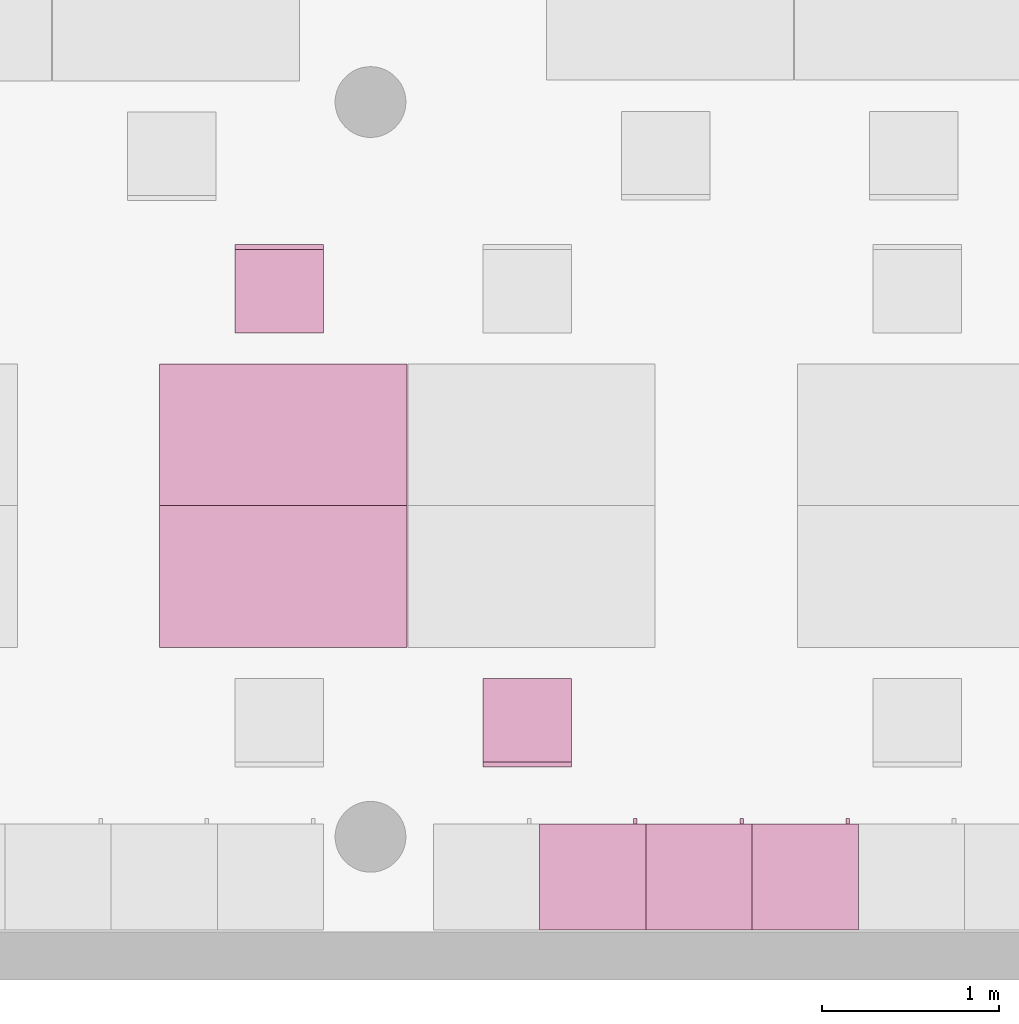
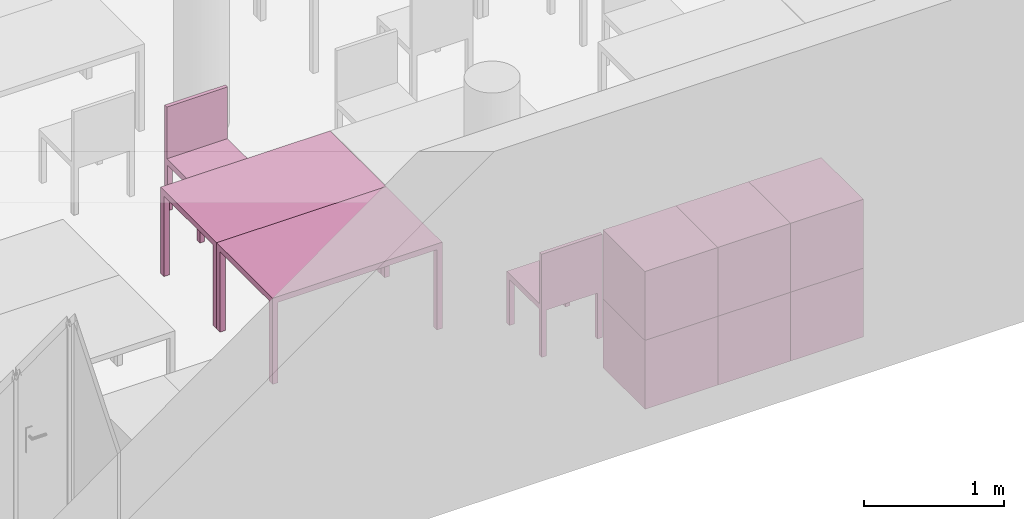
"""IFC4 building model written with IfcOpenShell, lengths in metres."""

from ifc_helpers import new_model, entity, si_unit, converted_unit, derived_unit, frame, origin, place, context, subcontext, project, spatial, faceted_brep, element, save


model = new_model("IFC4")

# Units and contexts
model_context = context("Model", 3, precision=1e-05, world=origin())
body_context = subcontext(model_context, "Body", "Model", "MODEL_VIEW")
ifc_project = project(units=[si_unit("LENGTHUNIT", "METRE"), si_unit("AREAUNIT", "SQUARE_METRE"), si_unit("VOLUMEUNIT", "CUBIC_METRE"), si_unit("MASSUNIT", "GRAM", prefix="KILO"), converted_unit("PLANEANGLEUNIT", "DEGREE", entity("IfcPlaneAngleMeasure", 0.0174532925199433), si_unit("PLANEANGLEUNIT", "RADIAN"), dimensions=[0, 0, 0, 0, 0, 0, 0]), derived_unit("THERMALTRANSMITTANCEUNIT", [(si_unit("POWERUNIT", "WATT"), 1), (si_unit("THERMODYNAMICTEMPERATUREUNIT", "KELVIN"), -1), (si_unit("LENGTHUNIT", "METRE"), -2)]), derived_unit("VOLUMETRICFLOWRATEUNIT", [(si_unit("LENGTHUNIT", "METRE"), 3), (converted_unit("TIMEUNIT", "hour", entity("IfcTimeMeasure", 3600.0), si_unit("TIMEUNIT", "SECOND"), dimensions=[0, 0, 1, 0, 0, 0, 0]), -1), (si_unit("LENGTHUNIT", "METRE"), -1)])], contexts=[model_context])

# Building, storeys
building_placement = place(None, origin())
building = spatial("IfcBuilding", under=ifc_project, at=building_placement, Name="HABITATGE PLURIFAMILIAR", CompositionType="ELEMENT")
storey_1_placement = place(building_placement, frame((0.0, 0.0, 18.29)))
storey_1 = spatial("IfcBuildingStorey", under=building, at=storey_1_placement, Name="PLANTA CINQUENA", CompositionType="ELEMENT", Elevation=18.29)
storey_2_placement = place(storey_1_placement, frame((0.0, 0.0, 15.28)))
storey_2 = spatial("IfcBuildingStorey", under=storey_1, at=storey_2_placement, Name="NOU", CompositionType="PARTIAL")

# Furniture
furniture_1_placement = place(storey_2_placement, frame((409.543194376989, 15.5193186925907, -15.28)))
element("IfcFurniture", 1, at=furniture_1_placement, inside=storey_2, Name="Taula 140X80_P5", context=body_context, shape_type="Brep", body=[
    faceted_brep([(0.04375, 0.05, 0.0), (0.0, 0.05, 0.0), (0.0, 0.0, 0.0), (0.04375, 0.0, 0.0), (0.04375, 0.0, 0.7), (0.0, 0.0, 0.7), (0.0, 0.05, 0.7), (0.04375, 0.05, 0.7)], [[[0, 1, 2, 3]], [[4, 5, 6, 7]], [[3, 4, 7, 0]], [[2, 5, 4, 3]], [[1, 6, 5, 2]], [[0, 7, 6, 1]]], orient=[[False], [False], [False], [False], [False], [False]]),
    faceted_brep([(0.04375, 0.800069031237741, 0.0), (0.0, 0.800069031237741, 0.0), (0.0, 0.750069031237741, 0.0), (0.04375, 0.750069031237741, 0.0), (0.04375, 0.750069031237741, 0.7), (0.0, 0.750069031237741, 0.7), (0.0, 0.800069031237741, 0.7), (0.04375, 0.800069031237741, 0.7)], [[[0, 1, 2, 3]], [[4, 5, 6, 7]], [[3, 4, 7, 0]], [[2, 5, 4, 3]], [[1, 6, 5, 2]], [[0, 7, 6, 1]]], orient=[[False], [False], [False], [False], [False], [False]]),
    faceted_brep([(1.39732768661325, 0.800069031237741, 0.7), (0.0, 0.800069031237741, 0.7), (0.0, 0.0, 0.7), (1.39732768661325, 0.0, 0.7), (1.39732768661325, 0.0, 0.75), (0.0, 0.0, 0.75), (0.0, 0.800069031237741, 0.75), (1.39732768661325, 0.800069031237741, 0.75)], [[[0, 1, 2, 3]], [[4, 5, 6, 7]], [[3, 4, 7, 0]], [[2, 5, 4, 3]], [[1, 6, 5, 2]], [[0, 7, 6, 1]]], orient=[[False], [False], [False], [False], [False], [False]]),
    faceted_brep([(1.39732768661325, 0.05, 0.0), (1.35357768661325, 0.05, 0.0), (1.35357768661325, 0.0, 0.0), (1.39732768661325, 0.0, 0.0), (1.39732768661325, 0.0, 0.7), (1.35357768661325, 0.0, 0.7), (1.35357768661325, 0.05, 0.7), (1.39732768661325, 0.05, 0.7)], [[[0, 1, 2, 3]], [[4, 5, 6, 7]], [[3, 4, 7, 0]], [[2, 5, 4, 3]], [[1, 6, 5, 2]], [[0, 7, 6, 1]]], orient=[[False], [False], [False], [False], [False], [False]]),
    faceted_brep([(1.39732768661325, 0.800069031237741, 0.0), (1.35357768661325, 0.800069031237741, 0.0), (1.35357768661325, 0.750069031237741, 0.0), (1.39732768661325, 0.750069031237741, 0.0), (1.39732768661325, 0.750069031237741, 0.7), (1.35357768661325, 0.750069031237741, 0.7), (1.35357768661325, 0.800069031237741, 0.7), (1.39732768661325, 0.800069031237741, 0.7)], [[[0, 1, 2, 3]], [[4, 5, 6, 7]], [[3, 4, 7, 0]], [[2, 5, 4, 3]], [[1, 6, 5, 2]], [[0, 7, 6, 1]]], orient=[[False], [False], [False], [False], [False], [False]]),
])
furniture_2_placement = place(storey_2_placement, frame((409.543194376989, 14.7192496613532, -15.28)))
element("IfcFurniture", 2, at=furniture_2_placement, inside=storey_2, Name="Taula 140X80_P5", context=body_context, shape_type="Brep", body=[
    faceted_brep([(0.04375, 0.750069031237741, 0.0), (0.04375, 0.800069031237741, 0.0), (0.0, 0.800069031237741, 0.0), (0.0, 0.750069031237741, 0.0), (0.04375, 0.800069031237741, 0.7), (0.04375, 0.750069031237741, 0.7), (0.0, 0.750069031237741, 0.7), (0.0, 0.800069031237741, 0.7)], [[[0, 1, 2, 3]], [[4, 5, 6, 7]], [[1, 0, 5, 4]], [[2, 1, 4, 7]], [[3, 2, 7, 6]], [[0, 3, 6, 5]]], orient=[[False], [False], [False], [False], [False], [False]]),
    faceted_brep([(0.04375, 0.0, 0.0), (0.04375, 0.05, 0.0), (0.0, 0.05, 0.0), (0.0, 0.0, 0.0), (0.04375, 0.05, 0.7), (0.04375, 0.0, 0.7), (0.0, 0.0, 0.7), (0.0, 0.05, 0.7)], [[[0, 1, 2, 3]], [[4, 5, 6, 7]], [[1, 0, 5, 4]], [[2, 1, 4, 7]], [[3, 2, 7, 6]], [[0, 3, 6, 5]]], orient=[[False], [False], [False], [False], [False], [False]]),
    faceted_brep([(1.39732768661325, 0.0, 0.7), (1.39732768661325, 0.800069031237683, 0.7), (0.0, 0.800069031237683, 0.7), (0.0, 0.0, 0.7), (1.39732768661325, 0.800069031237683, 0.75), (1.39732768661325, 0.0, 0.75), (0.0, 0.0, 0.75), (0.0, 0.800069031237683, 0.75)], [[[0, 1, 2, 3]], [[4, 5, 6, 7]], [[1, 0, 5, 4]], [[2, 1, 4, 7]], [[3, 2, 7, 6]], [[0, 3, 6, 5]]], orient=[[False], [False], [False], [False], [False], [False]]),
    faceted_brep([(1.39732768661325, 0.750069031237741, 0.0), (1.39732768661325, 0.800069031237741, 0.0), (1.35357768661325, 0.800069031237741, 0.0), (1.35357768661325, 0.750069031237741, 0.0), (1.39732768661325, 0.800069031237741, 0.7), (1.39732768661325, 0.750069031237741, 0.7), (1.35357768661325, 0.750069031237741, 0.7), (1.35357768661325, 0.800069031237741, 0.7)], [[[0, 1, 2, 3]], [[4, 5, 6, 7]], [[1, 0, 5, 4]], [[2, 1, 4, 7]], [[3, 2, 7, 6]], [[0, 3, 6, 5]]], orient=[[False], [False], [False], [False], [False], [False]]),
    faceted_brep([(1.39732768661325, 0.0, 0.0), (1.39732768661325, 0.05, 0.0), (1.35357768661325, 0.05, 0.0), (1.35357768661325, 0.0, 0.0), (1.39732768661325, 0.05, 0.7), (1.39732768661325, 0.0, 0.7), (1.35357768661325, 0.0, 0.7), (1.35357768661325, 0.05, 0.7)], [[[0, 1, 2, 3]], [[4, 5, 6, 7]], [[1, 0, 5, 4]], [[2, 1, 4, 7]], [[3, 2, 7, 6]], [[0, 3, 6, 5]]], orient=[[False], [False], [False], [False], [False], [False]]),
])
furniture_3_placement = place(storey_2_placement, frame((412.289266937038, 13.1230771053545, -15.2800000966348)))
element("IfcFurniture", 3, at=furniture_3_placement, inside=storey_2, Name="Armai 60x60x60_P5", context=body_context, shape_type="Brep", body=[
    faceted_brep([(0.600000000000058, 0.6, 0.02), (0.0, 0.6, 0.02), (0.0, 0.6, 0.0), (0.600000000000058, 0.6, 0.0), (0.0, 0.0, 0.02), (0.0, 0.0, 0.0), (0.600000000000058, 0.0, 0.02), (0.600000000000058, 0.0, 0.0)], [[[0, 1, 2, 3]], [[1, 4, 5, 2]], [[4, 6, 7, 5]], [[6, 0, 3, 7]], [[0, 6, 4, 1]], [[3, 2, 5, 7]]], orient=[[False], [False], [False], [False], [False], [False]]),
    faceted_brep([(0.02, 0.0, 0.58), (0.02, 0.0, 0.02), (0.02, 0.0200000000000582, 0.02), (0.02, 0.0200000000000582, 0.58), (0.58, 0.0, 0.02), (0.58, 0.0200000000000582, 0.02), (0.58, 0.0, 0.58), (0.58, 0.0200000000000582, 0.58)], [[[0, 1, 2, 3]], [[1, 4, 5, 2]], [[4, 6, 7, 5]], [[6, 0, 3, 7]], [[0, 6, 4, 1]], [[3, 2, 5, 7]]], orient=[[False], [False], [False], [False], [False], [False]]),
    faceted_brep([(0.58, 0.6, 0.58), (0.58, 0.6, 0.02), (0.6, 0.6, 0.02), (0.6, 0.6, 0.58), (0.58, 0.0, 0.02), (0.6, 0.0, 0.02), (0.58, 0.0, 0.58), (0.6, 0.0, 0.58)], [[[0, 1, 2, 3]], [[1, 4, 5, 2]], [[4, 6, 7, 5]], [[6, 0, 3, 7]], [[0, 6, 4, 1]], [[3, 2, 5, 7]]], orient=[[False], [False], [False], [False], [False], [False]]),
    faceted_brep([(0.600000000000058, 0.58, 0.58), (0.600000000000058, 0.58, 0.02), (0.600000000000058, 0.6, 0.02), (0.600000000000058, 0.6, 0.58), (0.580000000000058, 0.58, 0.02), (0.580000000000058, 0.6, 0.02), (0.580000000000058, 0.58, 0.58), (0.580000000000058, 0.6, 0.58)], [[[0, 1, 2, 3]], [[1, 4, 5, 2]], [[4, 6, 7, 5]], [[6, 0, 3, 7]], [[0, 6, 4, 1]], [[3, 2, 5, 7]]], orient=[[False], [False], [False], [False], [False], [False]]),
    faceted_brep([(0.0, 0.6, 0.58), (0.0, 0.6, 0.02), (0.0200000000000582, 0.6, 0.02), (0.0200000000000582, 0.6, 0.58), (0.0, 0.0, 0.02), (0.0200000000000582, 0.0, 0.02), (0.0, 0.0, 0.58), (0.0200000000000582, 0.0, 0.58)], [[[0, 1, 2, 3]], [[1, 4, 5, 2]], [[4, 6, 7, 5]], [[6, 0, 3, 7]], [[0, 6, 4, 1]], [[3, 2, 5, 7]]], orient=[[False], [False], [False], [False], [False], [False]]),
    faceted_brep([(0.6, 0.600000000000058, 0.6), (0.0, 0.600000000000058, 0.6), (0.0, 0.600000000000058, 0.58), (0.6, 0.600000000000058, 0.58), (0.0, 0.0, 0.6), (0.0, 0.0, 0.58), (0.6, 0.0, 0.6), (0.6, 0.0, 0.58)], [[[0, 1, 2, 3]], [[1, 4, 5, 2]], [[4, 6, 7, 5]], [[6, 0, 3, 7]], [[0, 6, 4, 1]], [[3, 2, 5, 7]]], orient=[[False], [False], [False], [False], [False], [False]]),
    faceted_brep([(0.02, 0.580000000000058, 0.58), (0.02, 0.580000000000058, 0.02), (0.02, 0.600000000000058, 0.02), (0.02, 0.600000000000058, 0.58), (0.580000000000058, 0.580000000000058, 0.02), (0.580000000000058, 0.600000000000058, 0.02), (0.580000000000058, 0.580000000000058, 0.58), (0.580000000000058, 0.600000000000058, 0.58)], [[[0, 1, 2, 3]], [[1, 4, 5, 2]], [[4, 6, 7, 5]], [[6, 0, 3, 7]], [[0, 6, 4, 1]], [[3, 2, 5, 7]]], orient=[[False], [False], [False], [False], [False], [False]]),
    faceted_brep([(0.53, 0.600000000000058, 0.358064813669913), (0.53, 0.600000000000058, 0.258064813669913), (0.53, 0.630000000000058, 0.258064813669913), (0.53, 0.630000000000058, 0.358064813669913), (0.55, 0.600000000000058, 0.258064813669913), (0.55, 0.630000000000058, 0.258064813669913), (0.55, 0.600000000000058, 0.358064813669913), (0.55, 0.630000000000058, 0.358064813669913)], [[[0, 1, 2, 3]], [[1, 4, 5, 2]], [[4, 6, 7, 5]], [[6, 0, 3, 7]], [[0, 6, 4, 1]], [[3, 2, 5, 7]]], orient=[[False], [False], [False], [False], [False], [False]]),
])
furniture_4_placement = place(storey_2_placement, frame((411.689266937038, 13.1230771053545, -15.2800000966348)))
element("IfcFurniture", 4, at=furniture_4_placement, inside=storey_2, Name="Armai 60x60x60_P5", context=body_context, shape_type="Brep", body=[
    faceted_brep([(0.600000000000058, 0.6, 0.02), (0.0, 0.6, 0.02), (0.0, 0.6, 0.0), (0.600000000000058, 0.6, 0.0), (0.0, 0.0, 0.02), (0.0, 0.0, 0.0), (0.600000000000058, 0.0, 0.02), (0.600000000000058, 0.0, 0.0)], [[[0, 1, 2, 3]], [[1, 4, 5, 2]], [[4, 6, 7, 5]], [[6, 0, 3, 7]], [[0, 6, 4, 1]], [[3, 2, 5, 7]]], orient=[[False], [False], [False], [False], [False], [False]]),
    faceted_brep([(0.02, 0.0, 0.58), (0.02, 0.0, 0.02), (0.02, 0.0200000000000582, 0.02), (0.02, 0.0200000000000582, 0.58), (0.58, 0.0, 0.02), (0.58, 0.0200000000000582, 0.02), (0.58, 0.0, 0.58), (0.58, 0.0200000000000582, 0.58)], [[[0, 1, 2, 3]], [[1, 4, 5, 2]], [[4, 6, 7, 5]], [[6, 0, 3, 7]], [[0, 6, 4, 1]], [[3, 2, 5, 7]]], orient=[[False], [False], [False], [False], [False], [False]]),
    faceted_brep([(0.58, 0.6, 0.58), (0.58, 0.6, 0.02), (0.6, 0.6, 0.02), (0.6, 0.6, 0.58), (0.58, 0.0, 0.02), (0.6, 0.0, 0.02), (0.58, 0.0, 0.58), (0.6, 0.0, 0.58)], [[[0, 1, 2, 3]], [[1, 4, 5, 2]], [[4, 6, 7, 5]], [[6, 0, 3, 7]], [[0, 6, 4, 1]], [[3, 2, 5, 7]]], orient=[[False], [False], [False], [False], [False], [False]]),
    faceted_brep([(0.600000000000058, 0.58, 0.58), (0.600000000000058, 0.58, 0.02), (0.600000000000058, 0.6, 0.02), (0.600000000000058, 0.6, 0.58), (0.580000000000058, 0.58, 0.02), (0.580000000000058, 0.6, 0.02), (0.580000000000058, 0.58, 0.58), (0.580000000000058, 0.6, 0.58)], [[[0, 1, 2, 3]], [[1, 4, 5, 2]], [[4, 6, 7, 5]], [[6, 0, 3, 7]], [[0, 6, 4, 1]], [[3, 2, 5, 7]]], orient=[[False], [False], [False], [False], [False], [False]]),
    faceted_brep([(0.0, 0.6, 0.58), (0.0, 0.6, 0.02), (0.0200000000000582, 0.6, 0.02), (0.0200000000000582, 0.6, 0.58), (0.0, 0.0, 0.02), (0.0200000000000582, 0.0, 0.02), (0.0, 0.0, 0.58), (0.0200000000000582, 0.0, 0.58)], [[[0, 1, 2, 3]], [[1, 4, 5, 2]], [[4, 6, 7, 5]], [[6, 0, 3, 7]], [[0, 6, 4, 1]], [[3, 2, 5, 7]]], orient=[[False], [False], [False], [False], [False], [False]]),
    faceted_brep([(0.6, 0.600000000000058, 0.6), (0.0, 0.600000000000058, 0.6), (0.0, 0.600000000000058, 0.58), (0.6, 0.600000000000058, 0.58), (0.0, 0.0, 0.6), (0.0, 0.0, 0.58), (0.6, 0.0, 0.6), (0.6, 0.0, 0.58)], [[[0, 1, 2, 3]], [[1, 4, 5, 2]], [[4, 6, 7, 5]], [[6, 0, 3, 7]], [[0, 6, 4, 1]], [[3, 2, 5, 7]]], orient=[[False], [False], [False], [False], [False], [False]]),
    faceted_brep([(0.02, 0.580000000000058, 0.58), (0.02, 0.580000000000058, 0.02), (0.02, 0.600000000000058, 0.02), (0.02, 0.600000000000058, 0.58), (0.580000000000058, 0.580000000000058, 0.02), (0.580000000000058, 0.600000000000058, 0.02), (0.580000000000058, 0.580000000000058, 0.58), (0.580000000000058, 0.600000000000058, 0.58)], [[[0, 1, 2, 3]], [[1, 4, 5, 2]], [[4, 6, 7, 5]], [[6, 0, 3, 7]], [[0, 6, 4, 1]], [[3, 2, 5, 7]]], orient=[[False], [False], [False], [False], [False], [False]]),
    faceted_brep([(0.53, 0.600000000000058, 0.358064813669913), (0.53, 0.600000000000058, 0.258064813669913), (0.53, 0.630000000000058, 0.258064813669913), (0.53, 0.630000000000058, 0.358064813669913), (0.55, 0.600000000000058, 0.258064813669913), (0.55, 0.630000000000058, 0.258064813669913), (0.55, 0.600000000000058, 0.358064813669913), (0.55, 0.630000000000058, 0.358064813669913)], [[[0, 1, 2, 3]], [[1, 4, 5, 2]], [[4, 6, 7, 5]], [[6, 0, 3, 7]], [[0, 6, 4, 1]], [[3, 2, 5, 7]]], orient=[[False], [False], [False], [False], [False], [False]]),
])
furniture_5_placement = place(storey_2_placement, frame((412.889266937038, 13.1230771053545, -15.2800000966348)))
element("IfcFurniture", 5, at=furniture_5_placement, inside=storey_2, Name="Armai 60x60x60_P5", context=body_context, shape_type="Brep", body=[
    faceted_brep([(0.600000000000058, 0.6, 0.02), (0.0, 0.6, 0.02), (0.0, 0.6, 0.0), (0.600000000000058, 0.6, 0.0), (0.0, 0.0, 0.02), (0.0, 0.0, 0.0), (0.600000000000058, 0.0, 0.02), (0.600000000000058, 0.0, 0.0)], [[[0, 1, 2, 3]], [[1, 4, 5, 2]], [[4, 6, 7, 5]], [[6, 0, 3, 7]], [[0, 6, 4, 1]], [[3, 2, 5, 7]]], orient=[[False], [False], [False], [False], [False], [False]]),
    faceted_brep([(0.02, 0.0, 0.58), (0.02, 0.0, 0.02), (0.02, 0.0200000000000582, 0.02), (0.02, 0.0200000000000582, 0.58), (0.58, 0.0, 0.02), (0.58, 0.0200000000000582, 0.02), (0.58, 0.0, 0.58), (0.58, 0.0200000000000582, 0.58)], [[[0, 1, 2, 3]], [[1, 4, 5, 2]], [[4, 6, 7, 5]], [[6, 0, 3, 7]], [[0, 6, 4, 1]], [[3, 2, 5, 7]]], orient=[[False], [False], [False], [False], [False], [False]]),
    faceted_brep([(0.58, 0.6, 0.58), (0.58, 0.6, 0.02), (0.6, 0.6, 0.02), (0.6, 0.6, 0.58), (0.58, 0.0, 0.02), (0.6, 0.0, 0.02), (0.58, 0.0, 0.58), (0.6, 0.0, 0.58)], [[[0, 1, 2, 3]], [[1, 4, 5, 2]], [[4, 6, 7, 5]], [[6, 0, 3, 7]], [[0, 6, 4, 1]], [[3, 2, 5, 7]]], orient=[[False], [False], [False], [False], [False], [False]]),
    faceted_brep([(0.600000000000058, 0.58, 0.58), (0.600000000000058, 0.58, 0.02), (0.600000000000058, 0.6, 0.02), (0.600000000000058, 0.6, 0.58), (0.580000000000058, 0.58, 0.02), (0.580000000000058, 0.6, 0.02), (0.580000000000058, 0.58, 0.58), (0.580000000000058, 0.6, 0.58)], [[[0, 1, 2, 3]], [[1, 4, 5, 2]], [[4, 6, 7, 5]], [[6, 0, 3, 7]], [[0, 6, 4, 1]], [[3, 2, 5, 7]]], orient=[[False], [False], [False], [False], [False], [False]]),
    faceted_brep([(0.0, 0.6, 0.58), (0.0, 0.6, 0.02), (0.0200000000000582, 0.6, 0.02), (0.0200000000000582, 0.6, 0.58), (0.0, 0.0, 0.02), (0.0200000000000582, 0.0, 0.02), (0.0, 0.0, 0.58), (0.0200000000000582, 0.0, 0.58)], [[[0, 1, 2, 3]], [[1, 4, 5, 2]], [[4, 6, 7, 5]], [[6, 0, 3, 7]], [[0, 6, 4, 1]], [[3, 2, 5, 7]]], orient=[[False], [False], [False], [False], [False], [False]]),
    faceted_brep([(0.6, 0.600000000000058, 0.6), (0.0, 0.600000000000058, 0.6), (0.0, 0.600000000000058, 0.58), (0.6, 0.600000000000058, 0.58), (0.0, 0.0, 0.6), (0.0, 0.0, 0.58), (0.6, 0.0, 0.6), (0.6, 0.0, 0.58)], [[[0, 1, 2, 3]], [[1, 4, 5, 2]], [[4, 6, 7, 5]], [[6, 0, 3, 7]], [[0, 6, 4, 1]], [[3, 2, 5, 7]]], orient=[[False], [False], [False], [False], [False], [False]]),
    faceted_brep([(0.02, 0.580000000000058, 0.58), (0.02, 0.580000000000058, 0.02), (0.02, 0.600000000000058, 0.02), (0.02, 0.600000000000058, 0.58), (0.580000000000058, 0.580000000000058, 0.02), (0.580000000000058, 0.600000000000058, 0.02), (0.580000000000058, 0.580000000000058, 0.58), (0.580000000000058, 0.600000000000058, 0.58)], [[[0, 1, 2, 3]], [[1, 4, 5, 2]], [[4, 6, 7, 5]], [[6, 0, 3, 7]], [[0, 6, 4, 1]], [[3, 2, 5, 7]]], orient=[[False], [False], [False], [False], [False], [False]]),
    faceted_brep([(0.53, 0.600000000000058, 0.358064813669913), (0.53, 0.600000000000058, 0.258064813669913), (0.53, 0.630000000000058, 0.258064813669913), (0.53, 0.630000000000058, 0.358064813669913), (0.55, 0.600000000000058, 0.258064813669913), (0.55, 0.630000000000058, 0.258064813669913), (0.55, 0.600000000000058, 0.358064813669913), (0.55, 0.630000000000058, 0.358064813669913)], [[[0, 1, 2, 3]], [[1, 4, 5, 2]], [[4, 6, 7, 5]], [[6, 0, 3, 7]], [[0, 6, 4, 1]], [[3, 2, 5, 7]]], orient=[[False], [False], [False], [False], [False], [False]]),
])
furniture_6_placement = place(storey_2_placement, frame((412.289266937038, 13.1230771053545, -14.6800000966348)))
element("IfcFurniture", 6, at=furniture_6_placement, inside=storey_2, Name="Armai 60x60x60_P5", context=body_context, shape_type="Brep", body=[
    faceted_brep([(0.600000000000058, 0.6, 0.02), (0.0, 0.6, 0.02), (0.0, 0.6, 0.0), (0.600000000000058, 0.6, 0.0), (0.0, 0.0, 0.02), (0.0, 0.0, 0.0), (0.600000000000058, 0.0, 0.02), (0.600000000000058, 0.0, 0.0)], [[[0, 1, 2, 3]], [[1, 4, 5, 2]], [[4, 6, 7, 5]], [[6, 0, 3, 7]], [[0, 6, 4, 1]], [[3, 2, 5, 7]]], orient=[[False], [False], [False], [False], [False], [False]]),
    faceted_brep([(0.02, 0.0, 0.58), (0.02, 0.0, 0.02), (0.02, 0.0200000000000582, 0.02), (0.02, 0.0200000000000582, 0.58), (0.58, 0.0, 0.02), (0.58, 0.0200000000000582, 0.02), (0.58, 0.0, 0.58), (0.58, 0.0200000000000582, 0.58)], [[[0, 1, 2, 3]], [[1, 4, 5, 2]], [[4, 6, 7, 5]], [[6, 0, 3, 7]], [[0, 6, 4, 1]], [[3, 2, 5, 7]]], orient=[[False], [False], [False], [False], [False], [False]]),
    faceted_brep([(0.58, 0.6, 0.58), (0.58, 0.6, 0.02), (0.6, 0.6, 0.02), (0.6, 0.6, 0.58), (0.58, 0.0, 0.02), (0.6, 0.0, 0.02), (0.58, 0.0, 0.58), (0.6, 0.0, 0.58)], [[[0, 1, 2, 3]], [[1, 4, 5, 2]], [[4, 6, 7, 5]], [[6, 0, 3, 7]], [[0, 6, 4, 1]], [[3, 2, 5, 7]]], orient=[[False], [False], [False], [False], [False], [False]]),
    faceted_brep([(0.600000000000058, 0.58, 0.58), (0.600000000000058, 0.58, 0.02), (0.600000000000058, 0.6, 0.02), (0.600000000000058, 0.6, 0.58), (0.580000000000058, 0.58, 0.02), (0.580000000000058, 0.6, 0.02), (0.580000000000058, 0.58, 0.58), (0.580000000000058, 0.6, 0.58)], [[[0, 1, 2, 3]], [[1, 4, 5, 2]], [[4, 6, 7, 5]], [[6, 0, 3, 7]], [[0, 6, 4, 1]], [[3, 2, 5, 7]]], orient=[[False], [False], [False], [False], [False], [False]]),
    faceted_brep([(0.0, 0.6, 0.58), (0.0, 0.6, 0.02), (0.0200000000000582, 0.6, 0.02), (0.0200000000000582, 0.6, 0.58), (0.0, 0.0, 0.02), (0.0200000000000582, 0.0, 0.02), (0.0, 0.0, 0.58), (0.0200000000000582, 0.0, 0.58)], [[[0, 1, 2, 3]], [[1, 4, 5, 2]], [[4, 6, 7, 5]], [[6, 0, 3, 7]], [[0, 6, 4, 1]], [[3, 2, 5, 7]]], orient=[[False], [False], [False], [False], [False], [False]]),
    faceted_brep([(0.6, 0.600000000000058, 0.6), (0.0, 0.600000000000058, 0.6), (0.0, 0.600000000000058, 0.58), (0.6, 0.600000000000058, 0.58), (0.0, 0.0, 0.6), (0.0, 0.0, 0.58), (0.6, 0.0, 0.6), (0.6, 0.0, 0.58)], [[[0, 1, 2, 3]], [[1, 4, 5, 2]], [[4, 6, 7, 5]], [[6, 0, 3, 7]], [[0, 6, 4, 1]], [[3, 2, 5, 7]]], orient=[[False], [False], [False], [False], [False], [False]]),
    faceted_brep([(0.02, 0.580000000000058, 0.58), (0.02, 0.580000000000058, 0.02), (0.02, 0.600000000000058, 0.02), (0.02, 0.600000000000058, 0.58), (0.580000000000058, 0.580000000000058, 0.02), (0.580000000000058, 0.600000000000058, 0.02), (0.580000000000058, 0.580000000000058, 0.58), (0.580000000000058, 0.600000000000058, 0.58)], [[[0, 1, 2, 3]], [[1, 4, 5, 2]], [[4, 6, 7, 5]], [[6, 0, 3, 7]], [[0, 6, 4, 1]], [[3, 2, 5, 7]]], orient=[[False], [False], [False], [False], [False], [False]]),
    faceted_brep([(0.53, 0.600000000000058, 0.358064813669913), (0.53, 0.600000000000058, 0.258064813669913), (0.53, 0.630000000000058, 0.258064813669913), (0.53, 0.630000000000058, 0.358064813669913), (0.55, 0.600000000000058, 0.258064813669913), (0.55, 0.630000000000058, 0.258064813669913), (0.55, 0.600000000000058, 0.358064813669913), (0.55, 0.630000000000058, 0.358064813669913)], [[[0, 1, 2, 3]], [[1, 4, 5, 2]], [[4, 6, 7, 5]], [[6, 0, 3, 7]], [[0, 6, 4, 1]], [[3, 2, 5, 7]]], orient=[[False], [False], [False], [False], [False], [False]]),
])
furniture_7_placement = place(storey_2_placement, frame((411.689266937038, 13.1230771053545, -14.6800000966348)))
element("IfcFurniture", 7, at=furniture_7_placement, inside=storey_2, Name="Armai 60x60x60_P5", context=body_context, shape_type="Brep", body=[
    faceted_brep([(0.600000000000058, 0.6, 0.02), (0.0, 0.6, 0.02), (0.0, 0.6, 0.0), (0.600000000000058, 0.6, 0.0), (0.0, 0.0, 0.02), (0.0, 0.0, 0.0), (0.600000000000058, 0.0, 0.02), (0.600000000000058, 0.0, 0.0)], [[[0, 1, 2, 3]], [[1, 4, 5, 2]], [[4, 6, 7, 5]], [[6, 0, 3, 7]], [[0, 6, 4, 1]], [[3, 2, 5, 7]]], orient=[[False], [False], [False], [False], [False], [False]]),
    faceted_brep([(0.02, 0.0, 0.58), (0.02, 0.0, 0.02), (0.02, 0.0200000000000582, 0.02), (0.02, 0.0200000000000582, 0.58), (0.58, 0.0, 0.02), (0.58, 0.0200000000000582, 0.02), (0.58, 0.0, 0.58), (0.58, 0.0200000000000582, 0.58)], [[[0, 1, 2, 3]], [[1, 4, 5, 2]], [[4, 6, 7, 5]], [[6, 0, 3, 7]], [[0, 6, 4, 1]], [[3, 2, 5, 7]]], orient=[[False], [False], [False], [False], [False], [False]]),
    faceted_brep([(0.58, 0.6, 0.58), (0.58, 0.6, 0.02), (0.6, 0.6, 0.02), (0.6, 0.6, 0.58), (0.58, 0.0, 0.02), (0.6, 0.0, 0.02), (0.58, 0.0, 0.58), (0.6, 0.0, 0.58)], [[[0, 1, 2, 3]], [[1, 4, 5, 2]], [[4, 6, 7, 5]], [[6, 0, 3, 7]], [[0, 6, 4, 1]], [[3, 2, 5, 7]]], orient=[[False], [False], [False], [False], [False], [False]]),
    faceted_brep([(0.600000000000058, 0.58, 0.58), (0.600000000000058, 0.58, 0.02), (0.600000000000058, 0.6, 0.02), (0.600000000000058, 0.6, 0.58), (0.580000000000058, 0.58, 0.02), (0.580000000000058, 0.6, 0.02), (0.580000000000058, 0.58, 0.58), (0.580000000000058, 0.6, 0.58)], [[[0, 1, 2, 3]], [[1, 4, 5, 2]], [[4, 6, 7, 5]], [[6, 0, 3, 7]], [[0, 6, 4, 1]], [[3, 2, 5, 7]]], orient=[[False], [False], [False], [False], [False], [False]]),
    faceted_brep([(0.0, 0.6, 0.58), (0.0, 0.6, 0.02), (0.0200000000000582, 0.6, 0.02), (0.0200000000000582, 0.6, 0.58), (0.0, 0.0, 0.02), (0.0200000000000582, 0.0, 0.02), (0.0, 0.0, 0.58), (0.0200000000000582, 0.0, 0.58)], [[[0, 1, 2, 3]], [[1, 4, 5, 2]], [[4, 6, 7, 5]], [[6, 0, 3, 7]], [[0, 6, 4, 1]], [[3, 2, 5, 7]]], orient=[[False], [False], [False], [False], [False], [False]]),
    faceted_brep([(0.6, 0.600000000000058, 0.6), (0.0, 0.600000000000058, 0.6), (0.0, 0.600000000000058, 0.58), (0.6, 0.600000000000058, 0.58), (0.0, 0.0, 0.6), (0.0, 0.0, 0.58), (0.6, 0.0, 0.6), (0.6, 0.0, 0.58)], [[[0, 1, 2, 3]], [[1, 4, 5, 2]], [[4, 6, 7, 5]], [[6, 0, 3, 7]], [[0, 6, 4, 1]], [[3, 2, 5, 7]]], orient=[[False], [False], [False], [False], [False], [False]]),
    faceted_brep([(0.02, 0.580000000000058, 0.58), (0.02, 0.580000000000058, 0.02), (0.02, 0.600000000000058, 0.02), (0.02, 0.600000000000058, 0.58), (0.580000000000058, 0.580000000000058, 0.02), (0.580000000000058, 0.600000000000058, 0.02), (0.580000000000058, 0.580000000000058, 0.58), (0.580000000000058, 0.600000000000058, 0.58)], [[[0, 1, 2, 3]], [[1, 4, 5, 2]], [[4, 6, 7, 5]], [[6, 0, 3, 7]], [[0, 6, 4, 1]], [[3, 2, 5, 7]]], orient=[[False], [False], [False], [False], [False], [False]]),
    faceted_brep([(0.53, 0.600000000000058, 0.358064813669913), (0.53, 0.600000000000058, 0.258064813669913), (0.53, 0.630000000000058, 0.258064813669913), (0.53, 0.630000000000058, 0.358064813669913), (0.55, 0.600000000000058, 0.258064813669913), (0.55, 0.630000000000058, 0.258064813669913), (0.55, 0.600000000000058, 0.358064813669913), (0.55, 0.630000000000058, 0.358064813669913)], [[[0, 1, 2, 3]], [[1, 4, 5, 2]], [[4, 6, 7, 5]], [[6, 0, 3, 7]], [[0, 6, 4, 1]], [[3, 2, 5, 7]]], orient=[[False], [False], [False], [False], [False], [False]]),
])
furniture_8_placement = place(storey_2_placement, frame((412.889266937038, 13.1230771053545, -14.6800000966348)))
element("IfcFurniture", 8, at=furniture_8_placement, inside=storey_2, Name="Armai 60x60x60_P5", context=body_context, shape_type="Brep", body=[
    faceted_brep([(0.600000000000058, 0.6, 0.02), (0.0, 0.6, 0.02), (0.0, 0.6, 0.0), (0.600000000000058, 0.6, 0.0), (0.0, 0.0, 0.02), (0.0, 0.0, 0.0), (0.600000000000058, 0.0, 0.02), (0.600000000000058, 0.0, 0.0)], [[[0, 1, 2, 3]], [[1, 4, 5, 2]], [[4, 6, 7, 5]], [[6, 0, 3, 7]], [[0, 6, 4, 1]], [[3, 2, 5, 7]]], orient=[[False], [False], [False], [False], [False], [False]]),
    faceted_brep([(0.02, 0.0, 0.58), (0.02, 0.0, 0.02), (0.02, 0.0200000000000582, 0.02), (0.02, 0.0200000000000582, 0.58), (0.58, 0.0, 0.02), (0.58, 0.0200000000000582, 0.02), (0.58, 0.0, 0.58), (0.58, 0.0200000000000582, 0.58)], [[[0, 1, 2, 3]], [[1, 4, 5, 2]], [[4, 6, 7, 5]], [[6, 0, 3, 7]], [[0, 6, 4, 1]], [[3, 2, 5, 7]]], orient=[[False], [False], [False], [False], [False], [False]]),
    faceted_brep([(0.58, 0.6, 0.58), (0.58, 0.6, 0.02), (0.6, 0.6, 0.02), (0.6, 0.6, 0.58), (0.58, 0.0, 0.02), (0.6, 0.0, 0.02), (0.58, 0.0, 0.58), (0.6, 0.0, 0.58)], [[[0, 1, 2, 3]], [[1, 4, 5, 2]], [[4, 6, 7, 5]], [[6, 0, 3, 7]], [[0, 6, 4, 1]], [[3, 2, 5, 7]]], orient=[[False], [False], [False], [False], [False], [False]]),
    faceted_brep([(0.600000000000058, 0.58, 0.58), (0.600000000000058, 0.58, 0.02), (0.600000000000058, 0.6, 0.02), (0.600000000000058, 0.6, 0.58), (0.580000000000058, 0.58, 0.02), (0.580000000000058, 0.6, 0.02), (0.580000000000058, 0.58, 0.58), (0.580000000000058, 0.6, 0.58)], [[[0, 1, 2, 3]], [[1, 4, 5, 2]], [[4, 6, 7, 5]], [[6, 0, 3, 7]], [[0, 6, 4, 1]], [[3, 2, 5, 7]]], orient=[[False], [False], [False], [False], [False], [False]]),
    faceted_brep([(0.0, 0.6, 0.58), (0.0, 0.6, 0.02), (0.0200000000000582, 0.6, 0.02), (0.0200000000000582, 0.6, 0.58), (0.0, 0.0, 0.02), (0.0200000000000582, 0.0, 0.02), (0.0, 0.0, 0.58), (0.0200000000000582, 0.0, 0.58)], [[[0, 1, 2, 3]], [[1, 4, 5, 2]], [[4, 6, 7, 5]], [[6, 0, 3, 7]], [[0, 6, 4, 1]], [[3, 2, 5, 7]]], orient=[[False], [False], [False], [False], [False], [False]]),
    faceted_brep([(0.6, 0.600000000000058, 0.6), (0.0, 0.600000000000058, 0.6), (0.0, 0.600000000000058, 0.58), (0.6, 0.600000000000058, 0.58), (0.0, 0.0, 0.6), (0.0, 0.0, 0.58), (0.6, 0.0, 0.6), (0.6, 0.0, 0.58)], [[[0, 1, 2, 3]], [[1, 4, 5, 2]], [[4, 6, 7, 5]], [[6, 0, 3, 7]], [[0, 6, 4, 1]], [[3, 2, 5, 7]]], orient=[[False], [False], [False], [False], [False], [False]]),
    faceted_brep([(0.02, 0.580000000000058, 0.58), (0.02, 0.580000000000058, 0.02), (0.02, 0.600000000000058, 0.02), (0.02, 0.600000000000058, 0.58), (0.580000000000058, 0.580000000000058, 0.02), (0.580000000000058, 0.600000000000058, 0.02), (0.580000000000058, 0.580000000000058, 0.58), (0.580000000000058, 0.600000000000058, 0.58)], [[[0, 1, 2, 3]], [[1, 4, 5, 2]], [[4, 6, 7, 5]], [[6, 0, 3, 7]], [[0, 6, 4, 1]], [[3, 2, 5, 7]]], orient=[[False], [False], [False], [False], [False], [False]]),
    faceted_brep([(0.53, 0.600000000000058, 0.358064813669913), (0.53, 0.600000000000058, 0.258064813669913), (0.53, 0.630000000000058, 0.258064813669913), (0.53, 0.630000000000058, 0.358064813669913), (0.55, 0.600000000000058, 0.258064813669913), (0.55, 0.630000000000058, 0.258064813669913), (0.55, 0.600000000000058, 0.358064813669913), (0.55, 0.630000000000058, 0.358064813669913)], [[[0, 1, 2, 3]], [[1, 4, 5, 2]], [[4, 6, 7, 5]], [[6, 0, 3, 7]], [[0, 6, 4, 1]], [[3, 2, 5, 7]]], orient=[[False], [False], [False], [False], [False], [False]]),
])
furniture_9_placement = place(storey_2_placement, frame((409.96822386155, 16.4960730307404, -15.2746385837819)))
element("IfcFurniture", 9, at=furniture_9_placement, inside=storey_2, Name="Cadira d'Oficina_P5", context=body_context, shape_type="Brep", body=[
    faceted_brep([(0.0, 0.0, 0.4), (0.5, 0.0, 0.4), (0.5, 0.500000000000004, 0.4), (0.0, 0.5, 0.4), (0.0, 0.5, 0.45), (0.5, 0.500000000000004, 0.45), (0.5, 0.0, 0.45), (0.0, 0.0, 0.45)], [[[0, 1, 2, 3]], [[4, 5, 6, 7]], [[3, 4, 7, 0]], [[2, 5, 4, 3]], [[1, 6, 5, 2]], [[0, 7, 6, 1]]], orient=[[False], [False], [False], [False], [False], [False]]),
    faceted_brep([(0.5, 0.460000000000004, 0.0), (0.5, 0.500000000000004, 0.0), (0.46, 0.5, 0.0), (0.46, 0.46, 0.0), (0.46, 0.46, 0.4), (0.46, 0.5, 0.4), (0.5, 0.500000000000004, 0.4), (0.5, 0.460000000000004, 0.4)], [[[0, 1, 2, 3]], [[4, 5, 6, 7]], [[3, 4, 7, 0]], [[2, 5, 4, 3]], [[1, 6, 5, 2]], [[0, 7, 6, 1]]], orient=[[False], [False], [False], [False], [False], [False]]),
    faceted_brep([(0.5, 0.0, 0.0), (0.5, 0.0400000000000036, 0.0), (0.46, 0.04, 0.0), (0.46, 0.0, 0.0), (0.46, 0.0, 0.4), (0.46, 0.04, 0.4), (0.5, 0.0400000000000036, 0.4), (0.5, 0.0, 0.4)], [[[0, 1, 2, 3]], [[4, 5, 6, 7]], [[3, 4, 7, 0]], [[2, 5, 4, 3]], [[1, 6, 5, 2]], [[0, 7, 6, 1]]], orient=[[False], [False], [False], [False], [False], [False]]),
    faceted_brep([(0.04, 0.46, 0.0), (0.04, 0.5, 0.0), (0.0, 0.5, 0.0), (0.0, 0.46, 0.0), (0.0, 0.46, 0.4), (0.0, 0.5, 0.4), (0.04, 0.5, 0.4), (0.04, 0.46, 0.4)], [[[0, 1, 2, 3]], [[4, 5, 6, 7]], [[3, 4, 7, 0]], [[2, 5, 4, 3]], [[1, 6, 5, 2]], [[0, 7, 6, 1]]], orient=[[False], [False], [False], [False], [False], [False]]),
    faceted_brep([(0.04, 0.0, 0.0), (0.04, 0.04, 0.0), (0.0, 0.04, 0.0), (0.0, 0.0, 0.0), (0.0, 0.0, 0.4), (0.0, 0.04, 0.4), (0.04, 0.04, 0.4), (0.04, 0.0, 0.4)], [[[0, 1, 2, 3]], [[4, 5, 6, 7]], [[3, 4, 7, 0]], [[2, 5, 4, 3]], [[1, 6, 5, 2]], [[0, 7, 6, 1]]], orient=[[False], [False], [False], [False], [False], [False]]),
    faceted_brep([(0.5, 0.470000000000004, 0.45), (0.5, 0.500000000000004, 0.45), (0.0, 0.5, 0.45), (0.0, 0.47, 0.45), (0.0, 0.47, 0.9), (0.0, 0.5, 0.9), (0.5, 0.500000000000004, 0.9), (0.5, 0.470000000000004, 0.9)], [[[0, 1, 2, 3]], [[4, 5, 6, 7]], [[3, 4, 7, 0]], [[2, 5, 4, 3]], [[1, 6, 5, 2]], [[0, 7, 6, 1]]], orient=[[False], [False], [False], [False], [False], [False]]),
])
furniture_10_placement = place(storey_2_placement, frame((411.369402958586, 14.0425643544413, -15.2746385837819)))
element("IfcFurniture", 10, at=furniture_10_placement, inside=storey_2, Name="Cadira d'Oficina_P5", context=body_context, shape_type="Brep", body=[
    faceted_brep([(0.0, 0.500000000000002, 0.4), (0.0, 0.0, 0.4), (0.5, 0.0, 0.4), (0.5, 0.499999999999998, 0.4), (0.0, 0.0, 0.45), (0.0, 0.500000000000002, 0.45), (0.5, 0.499999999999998, 0.45), (0.5, 0.0, 0.45)], [[[0, 1, 2, 3]], [[4, 5, 6, 7]], [[1, 0, 5, 4]], [[2, 1, 4, 7]], [[3, 2, 7, 6]], [[0, 3, 6, 5]]], orient=[[False], [False], [False], [False], [False], [False]]),
    faceted_brep([(0.5, 0.04, 0.0), (0.46, 0.04, 0.0), (0.46, 0.0, 0.0), (0.5, 0.0, 0.0), (0.46, 0.04, 0.4), (0.5, 0.04, 0.4), (0.5, 0.0, 0.4), (0.46, 0.0, 0.4)], [[[0, 1, 2, 3]], [[4, 5, 6, 7]], [[1, 0, 5, 4]], [[2, 1, 4, 7]], [[3, 2, 7, 6]], [[0, 3, 6, 5]]], orient=[[False], [False], [False], [False], [False], [False]]),
    faceted_brep([(0.5, 0.499999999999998, 0.0), (0.46, 0.5, 0.0), (0.46, 0.46, 0.0), (0.5, 0.459999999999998, 0.0), (0.46, 0.5, 0.4), (0.5, 0.499999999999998, 0.4), (0.5, 0.459999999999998, 0.4), (0.46, 0.46, 0.4)], [[[0, 1, 2, 3]], [[4, 5, 6, 7]], [[1, 0, 5, 4]], [[2, 1, 4, 7]], [[3, 2, 7, 6]], [[0, 3, 6, 5]]], orient=[[False], [False], [False], [False], [False], [False]]),
    faceted_brep([(0.04, 0.04, 0.0), (0.0, 0.0400000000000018, 0.0), (0.0, 0.0, 0.0), (0.04, 0.0, 0.0), (0.0, 0.0400000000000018, 0.4), (0.04, 0.04, 0.4), (0.04, 0.0, 0.4), (0.0, 0.0, 0.4)], [[[0, 1, 2, 3]], [[4, 5, 6, 7]], [[1, 0, 5, 4]], [[2, 1, 4, 7]], [[3, 2, 7, 6]], [[0, 3, 6, 5]]], orient=[[False], [False], [False], [False], [False], [False]]),
    faceted_brep([(0.04, 0.5, 0.0), (0.0, 0.500000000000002, 0.0), (0.0, 0.460000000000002, 0.0), (0.04, 0.46, 0.0), (0.0, 0.500000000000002, 0.4), (0.04, 0.5, 0.4), (0.04, 0.46, 0.4), (0.0, 0.460000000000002, 0.4)], [[[0, 1, 2, 3]], [[4, 5, 6, 7]], [[1, 0, 5, 4]], [[2, 1, 4, 7]], [[3, 2, 7, 6]], [[0, 3, 6, 5]]], orient=[[False], [False], [False], [False], [False], [False]]),
    faceted_brep([(0.5, 0.03, 0.45), (0.0, 0.0300000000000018, 0.45), (0.0, 0.0, 0.45), (0.5, 0.0, 0.45), (0.0, 0.0300000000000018, 0.9), (0.5, 0.03, 0.9), (0.5, 0.0, 0.9), (0.0, 0.0, 0.9)], [[[0, 1, 2, 3]], [[4, 5, 6, 7]], [[1, 0, 5, 4]], [[2, 1, 4, 7]], [[3, 2, 7, 6]], [[0, 3, 6, 5]]], orient=[[False], [False], [False], [False], [False], [False]]),
])

save(model, "model.ifc")
